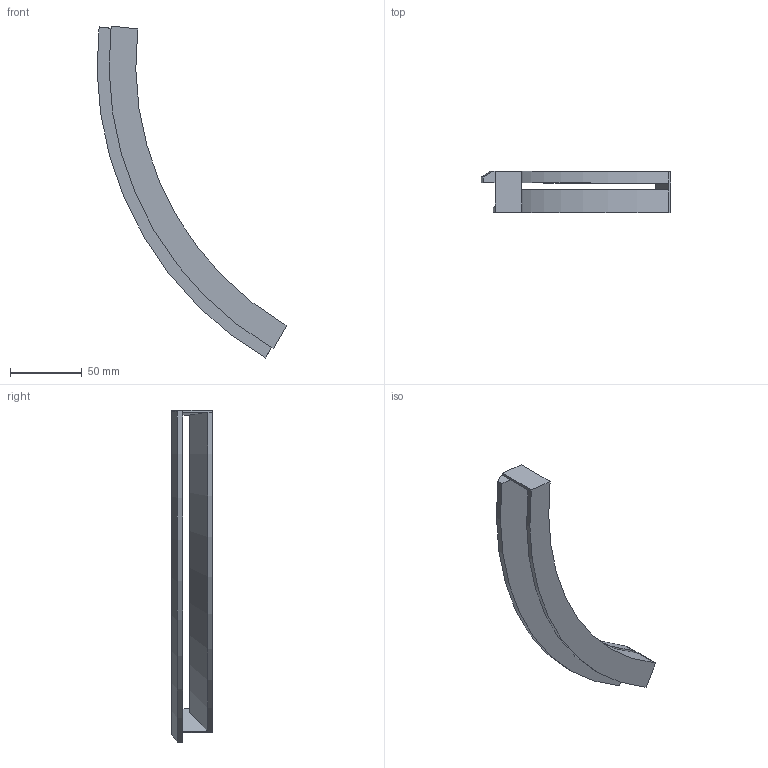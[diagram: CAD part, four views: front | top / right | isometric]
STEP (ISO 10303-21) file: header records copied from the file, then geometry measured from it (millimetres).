
FILE_DESCRIPTION(/* description */ ('Alibre Inc.'),/* implementation_level */ '2;1');
FILE_NAME(/* name */ 'export0',/* time_stamp */ '2013-03-04T18:29:58-05:00',/* author */ (''),/* organization */ (''),/* preprocessor_version */ 'ST-DEVELOPER v14',/* originating_system */ 'Alibre',/* authorisation */ '');
FILE_SCHEMA (('CONFIG_CONTROL_DESIGN'));
Length unit declared in the file: centimetre
Products named in the file (1): ID_1
Bounding box: 132.37 x 28.57 x 231.5 mm (x, y, z)
Volume: 102874.4 mm3; surface area: 34317.6 mm2
Topology: 1 solids, 1 shells, 20 faces, 52 edges, 32 vertices
Faces by surface type: plane 14, cylinder 4, cone 2
Entity records: 673 total; most frequent: ORIENTED_EDGE 104, CARTESIAN_POINT 103, DIRECTION 88, EDGE_CURVE 52, VECTOR 40, LINE 40, VERTEX_POINT 32, AXIS2_PLACEMENT_3D 31
